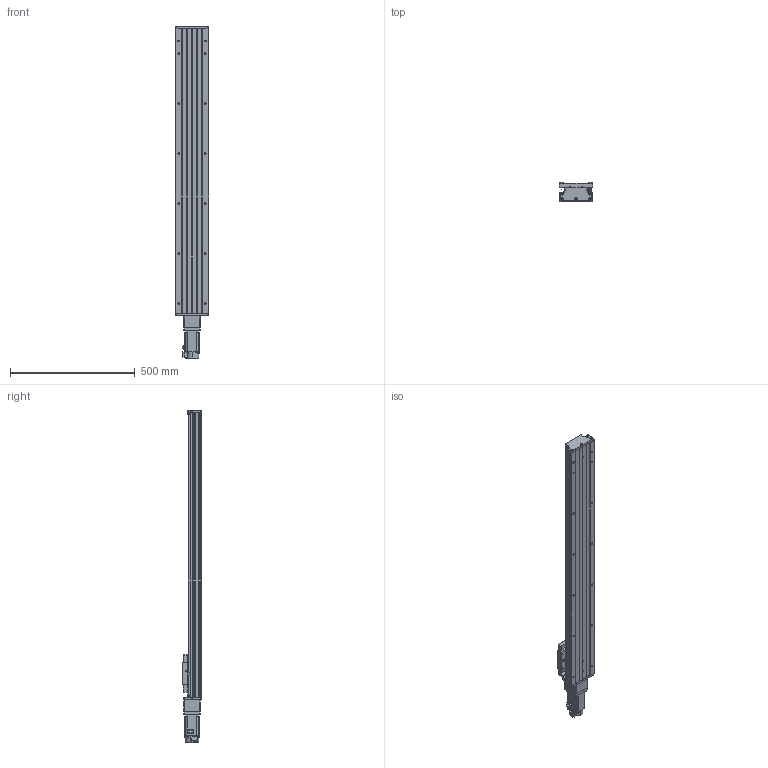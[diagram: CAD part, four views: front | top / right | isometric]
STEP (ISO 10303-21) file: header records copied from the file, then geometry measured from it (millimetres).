
FILE_DESCRIPTION (( 'STEP AP203' ), '1' );
FILE_NAME ('CTH130-950-BC-M40-C4.step', '2023-06-30T02:35:08', ( '微软用户' ), ( '微软中国' ), 'SwSTEP 2.0', 'SolidWorks 2020', '' );
FILE_SCHEMA (( 'CONFIG_CONTROL_DESIGN' ));
Length unit declared in the file: millimetre
Products named in the file (21): GB1155-6X6; CTH130-031; HG-KN43J-S100; GBT70.1 M5℅16; GBT 70.2-M3¡Á5_M3¡Á6; CTH130-950-BC-M40-C4; GTH14-001_950; CTHA60-017; す晦芛蹟隊 M3℅5; CTH130-002_GTH14-002; EE_SX911P_R; CTHA86-006-1_M40; GB T308.1-2013-6.35; CTHA60-016; CTHA86-013; GTH14-004; GBT 70.1-M3℅5; CTHA86-027-1; GTH14-005; GBT77-2000 M3×3; GBT 70.3-M3℅8
Assembly tree (59 placements, depth 2):
  CTH130-950-BC-M40-C4
    GTH14-001_950
    CTH130-002_GTH14-002
    GB T308.1-2013-6.35  x2
    GTH14-004
    GTH14-005
    GB1155-6X6  x2
    GBT70.1 M5℅16  x10
    CTHA60-017  x3
    EE_SX911P_R  x3
    CTHA60-016  x2
    GBT 70.1-M3℅5  x6
    GBT77-2000 M3×3  x6
    CTH130-031
    GBT 70.2-M3¡Á5_M3¡Á6  x8
    す晦芛蹟隊 M3℅5  x6
    CTHA86-006-1_M40
    CTHA86-013
    CTHA86-027-1
    GBT 70.3-M3℅8  x2
    HG-KN43J-S100
Bounding box: 135 x 76 x 1328.7 mm (x, y, z)
Volume: 6403936.7 mm3; surface area: 987698.8 mm2
Topology: 62 solids, 62 shells, 2400 faces, 5729 edges, 3551 vertices
Faces by surface type: plane 1307, cylinder 642, cone 287, torus 120, sphere 24, bspline 20
Entity records: 44296 total; most frequent: CARTESIAN_POINT 9905, DIRECTION 6451, ORIENTED_EDGE 6358, EDGE_CURVE 3179, AXIS2_PLACEMENT_3D 2193, VECTOR 2065, LINE 2065, VERTEX_POINT 2011
